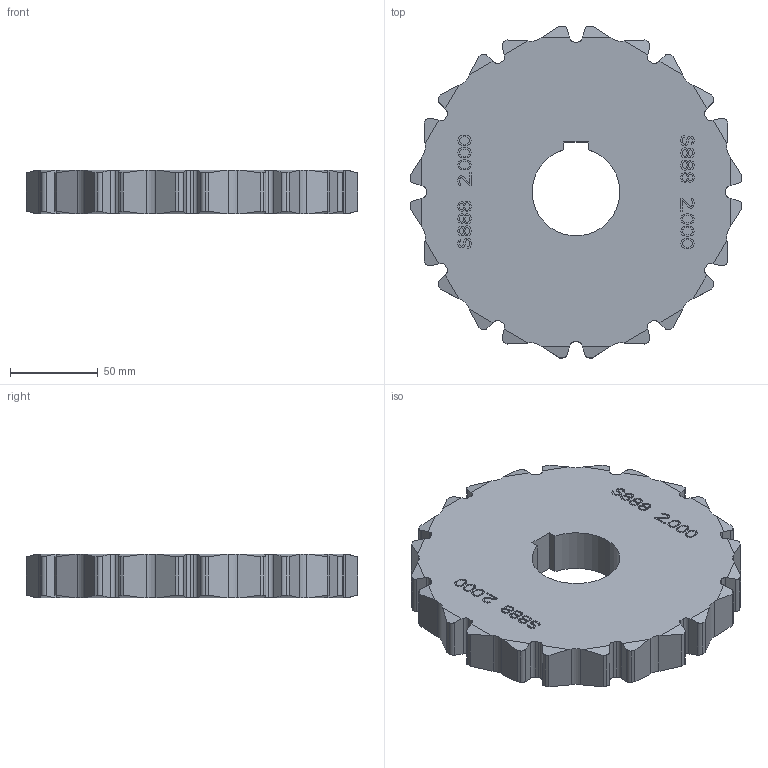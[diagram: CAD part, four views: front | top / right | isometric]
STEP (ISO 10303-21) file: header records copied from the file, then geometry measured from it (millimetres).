
FILE_DESCRIPTION((''),'2;1');
FILE_NAME('S888_12T_RND','2017-06-27T',('rklein'),('INTRALOX'),'CREO PARAMETRIC BY PTC INC, 2014500','CREO PARAMETRIC BY PTC INC, 2014500','');
FILE_SCHEMA(('CONFIG_CONTROL_DESIGN'));
Length unit declared in the file: inch
Products named in the file (1): S888_12T_RND
Bounding box: 189.08 x 189.08 x 24.89 mm (x, y, z)
Volume: 598901.4 mm3; surface area: 70577.8 mm2
Topology: 1 solids, 1 shells, 1934 faces, 5580 edges, 3720 vertices
Faces by surface type: plane 1873, cylinder 61
Entity records: 62338 total; most frequent: CARTESIAN_POINT 11426, ORIENTED_EDGE 11160, DIRECTION 9474, EDGE_CURVE 5580, VECTOR 5458, LINE 5458, VERTEX_POINT 3720, AXIS2_PLACEMENT_3D 2008
